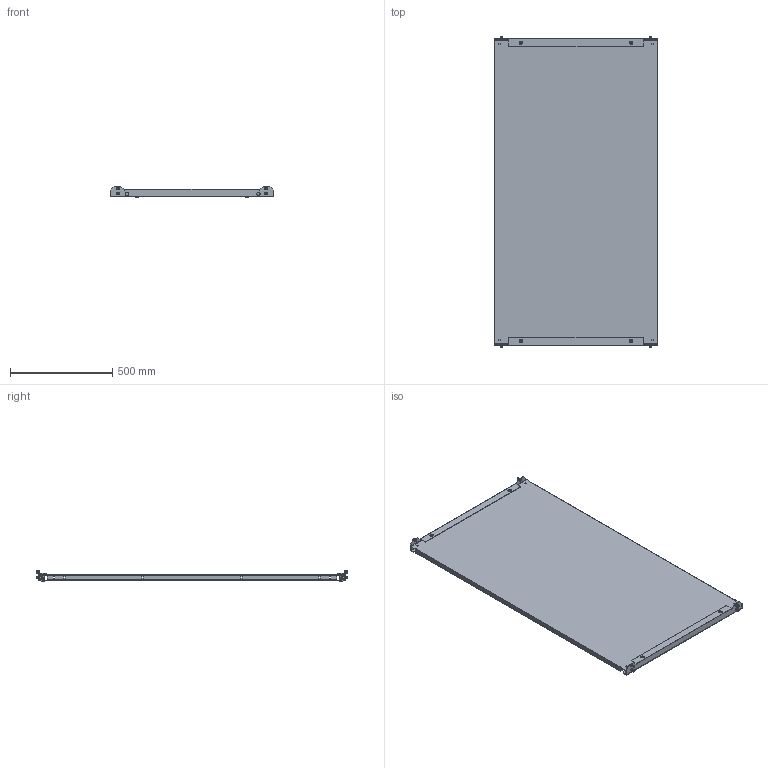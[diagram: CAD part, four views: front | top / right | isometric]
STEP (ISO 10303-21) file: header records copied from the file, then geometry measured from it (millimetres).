
FILE_DESCRIPTION(('Open CASCADE Model'),'2;1');
FILE_NAME('Open CASCADE Shape Model','2025-02-13T16:49:52',('Author'),( 'Open CASCADE'),'Open CASCADE STEP processor 7.8','Open CASCADE 7.8' ,'Unknown');
FILE_SCHEMA(('AUTOMOTIVE_DESIGN { 1 0 10303 214 1 1 1 1 }'));
Length unit declared in the file: millimetre
Products named in the file (11): Compound1; Solid1; Compound2; Solid2; Solid3; Solid4; Solid5; Solid6; Solid7; Solid8; Solid9
Assembly tree (38 placements, depth 3):
  Compound1
    Solid1
    Compound2  x2
      Solid2
      Solid3
    Solid4  x4
    Solid5  x4
    Solid6  x4
    Solid7  x4
    Solid8  x8
    Solid9  x8
Bounding box: 800 x 1526 x 55.3 mm (x, y, z)
Volume: 3784516.8 mm3; surface area: 3059333.1 mm2
Topology: 39 solids, 39 shells, 2692 faces, 7206 edges, 4528 vertices
Faces by surface type: plane 1298, cylinder 730, bspline 304, cone 228, torus 128, sphere 4
Full cylindrical faces by diameter (mm): 5 x12, 6 x16, 6.5 x8, 6.8 x32, 8 x4, 8.3 x8, 8.4 x4, 9.5 x8, 10.1 x4, 10.44 x4, 10.5 x4, 11.57 x8, 12 x4, 12.65 x4, 16 x12, 16.55 x4
Entity records: 23066 total; most frequent: CARTESIAN_POINT 6118, ORIENTED_EDGE 3604, DIRECTION 3274, EDGE_CURVE 1802, VERTEX_POINT 1154, LINE 1150, VECTOR 1150, AXIS2_PLACEMENT_3D 1062
